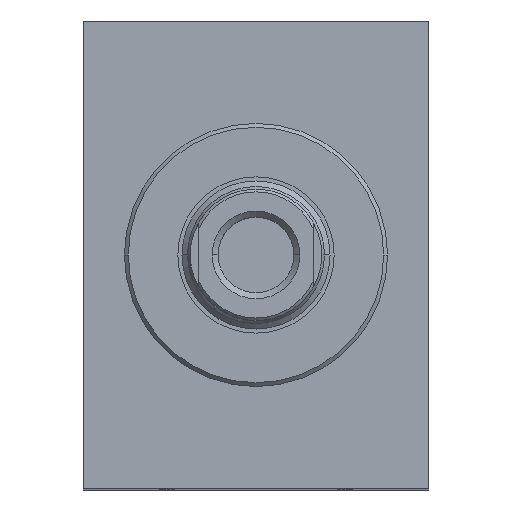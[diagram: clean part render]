
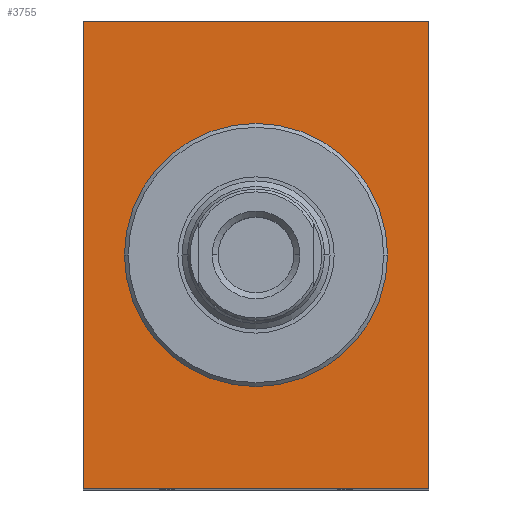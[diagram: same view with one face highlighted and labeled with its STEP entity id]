
A CAD part, top view. The second image highlights one B-rep face of the part: STEP entity #3755.
In plain terms, the highlighted planar face has unit normal (0, 0, 1).
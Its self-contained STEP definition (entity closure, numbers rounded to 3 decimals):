
#120 = EDGE_CURVE ( 'NONE', #405, #220, #3872, .T. ) ;
#156 = VECTOR ( 'NONE', #1534, 1000. ) ;
#201 = EDGE_LOOP ( 'NONE', ( #3610, #3064, #4455, #4005 ) ) ;
#218 = EDGE_CURVE ( 'NONE', #1857, #5096, #1321, .T. ) ;
#220 = VERTEX_POINT ( 'NONE', #5103 ) ;
#295 = CARTESIAN_POINT ( 'NONE',  ( 0., 0., -10. ) ) ;
#405 = VERTEX_POINT ( 'NONE', #1831 ) ;
#520 = VECTOR ( 'NONE', #2185, 1000. ) ;
#601 = ORIENTED_EDGE ( 'NONE', *, *, #1377, .T. ) ;
#625 = DIRECTION ( 'NONE',  ( -1., 0., 0. ) ) ;
#765 = AXIS2_PLACEMENT_3D ( 'NONE', #2955, #2838, #5374 ) ;
#1232 = DIRECTION ( 'NONE',  ( 0., 0., -1. ) ) ;
#1248 = VECTOR ( 'NONE', #4678, 1000. ) ;
#1321 = LINE ( 'NONE', #2972, #1248 ) ;
#1377 = EDGE_CURVE ( 'NONE', #220, #405, #2927, .T. ) ;
#1471 = AXIS2_PLACEMENT_3D ( 'NONE', #295, #1232, #2944 ) ;
#1476 = LINE ( 'NONE', #3206, #156 ) ;
#1534 = DIRECTION ( 'NONE',  ( 0., -1., 0. ) ) ;
#1643 = EDGE_CURVE ( 'NONE', #3534, #4562, #3497, .T. ) ;
#1662 = FACE_BOUND ( 'NONE', #2565, .T. ) ;
#1678 = CARTESIAN_POINT ( 'NONE',  ( 31.5, 42.5, -10. ) ) ;
#1681 = AXIS2_PLACEMENT_3D ( 'NONE', #5216, #4433, #625 ) ;
#1831 = CARTESIAN_POINT ( 'NONE',  ( 24.001, 0., -10. ) ) ;
#1857 = VERTEX_POINT ( 'NONE', #1678 ) ;
#1996 = ORIENTED_EDGE ( 'NONE', *, *, #120, .T. ) ;
#2185 = DIRECTION ( 'NONE',  ( 0., 1., 0. ) ) ;
#2565 = EDGE_LOOP ( 'NONE', ( #601, #1996 ) ) ;
#2838 = DIRECTION ( 'NONE',  ( 0., 0., 1. ) ) ;
#2927 = CIRCLE ( 'NONE', #1681, 24.001 ) ;
#2944 = DIRECTION ( 'NONE',  ( -1., 0., 0. ) ) ;
#2955 = CARTESIAN_POINT ( 'NONE',  ( 0., 0., -10. ) ) ;
#2972 = CARTESIAN_POINT ( 'NONE',  ( 31.5, 42.5, -10. ) ) ;
#3008 = LINE ( 'NONE', #4687, #520 ) ;
#3064 = ORIENTED_EDGE ( 'NONE', *, *, #1643, .T. ) ;
#3206 = CARTESIAN_POINT ( 'NONE',  ( -31.5, 42.5, -10. ) ) ;
#3215 = EDGE_CURVE ( 'NONE', #5096, #3534, #1476, .T. ) ;
#3497 = LINE ( 'NONE', #5186, #3667 ) ;
#3534 = VERTEX_POINT ( 'NONE', #4830 ) ;
#3610 = ORIENTED_EDGE ( 'NONE', *, *, #3215, .T. ) ;
#3667 = VECTOR ( 'NONE', #4758, 1000. ) ;
#3755 = ADVANCED_FACE ( 'NONE', ( #1662, #4931 ), #5052, .T. ) ;
#3872 = CIRCLE ( 'NONE', #1471, 24.001 ) ;
#4005 = ORIENTED_EDGE ( 'NONE', *, *, #218, .T. ) ;
#4239 = CARTESIAN_POINT ( 'NONE',  ( 31.5, -42.5, -10. ) ) ;
#4433 = DIRECTION ( 'NONE',  ( 0., 0., -1. ) ) ;
#4455 = ORIENTED_EDGE ( 'NONE', *, *, #5351, .T. ) ;
#4562 = VERTEX_POINT ( 'NONE', #4239 ) ;
#4678 = DIRECTION ( 'NONE',  ( -1., 0., 0. ) ) ;
#4687 = CARTESIAN_POINT ( 'NONE',  ( 31.5, -42.5, -10. ) ) ;
#4758 = DIRECTION ( 'NONE',  ( 1., 0., 0. ) ) ;
#4830 = CARTESIAN_POINT ( 'NONE',  ( -31.5, -42.5, -10. ) ) ;
#4931 = FACE_OUTER_BOUND ( 'NONE', #201, .T. ) ;
#5052 = PLANE ( 'NONE',  #765 ) ;
#5096 = VERTEX_POINT ( 'NONE', #5364 ) ;
#5103 = CARTESIAN_POINT ( 'NONE',  ( -24.001, 0., -10. ) ) ;
#5186 = CARTESIAN_POINT ( 'NONE',  ( -31.5, -42.5, -10. ) ) ;
#5216 = CARTESIAN_POINT ( 'NONE',  ( 0., 0., -10. ) ) ;
#5351 = EDGE_CURVE ( 'NONE', #4562, #1857, #3008, .T. ) ;
#5364 = CARTESIAN_POINT ( 'NONE',  ( -31.5, 42.5, -10. ) ) ;
#5374 = DIRECTION ( 'NONE',  ( 1., 0., 0. ) ) ;
